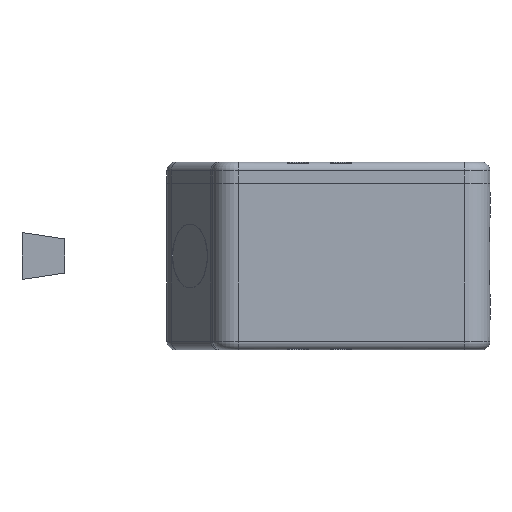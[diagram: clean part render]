
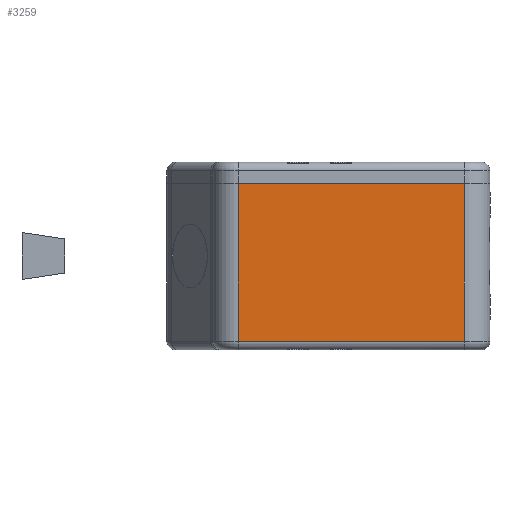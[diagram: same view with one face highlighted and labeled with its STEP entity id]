
A CAD part, front view. The second image highlights one B-rep face of the part: STEP entity #3259.
In plain terms, the highlighted planar face has unit normal (0, -1, 0).
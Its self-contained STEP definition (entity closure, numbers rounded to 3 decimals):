
#1290 = AXIS2_PLACEMENT_3D ( 'NONE', #9126, #23702, #19220 ) ;
#1387 = ORIENTED_EDGE ( 'NONE', *, *, #27041, .T. ) ;
#1480 = EDGE_LOOP ( 'NONE', ( #22963, #1387, #9061, #11560 ) ) ;
#2621 = CARTESIAN_POINT ( 'NONE',  ( 36.763, -36.226, 2. ) ) ;
#2703 = EDGE_CURVE ( 'NONE', #6334, #11906, #19130, .T. ) ;
#3259 = ADVANCED_FACE ( 'NONE', ( #14573 ), #4908, .F. ) ;
#3315 = EDGE_CURVE ( 'NONE', #25548, #16723, #19133, .T. ) ;
#3825 = DIRECTION ( 'NONE',  ( 1., 0., 0. ) ) ;
#4183 = VECTOR ( 'NONE', #3825, 1000. ) ;
#4908 = PLANE ( 'NONE',  #1290 ) ;
#5128 = VECTOR ( 'NONE', #11493, 1000. ) ;
#6334 = VERTEX_POINT ( 'NONE', #16452 ) ;
#6580 = LINE ( 'NONE', #19900, #10520 ) ;
#7100 = VECTOR ( 'NONE', #8012, 1000. ) ;
#8012 = DIRECTION ( 'NONE',  ( 0., 0., -1. ) ) ;
#9061 = ORIENTED_EDGE ( 'NONE', *, *, #3315, .T. ) ;
#9126 = CARTESIAN_POINT ( 'NONE',  ( -22.237, -36.226, 39. ) ) ;
#9771 = CARTESIAN_POINT ( 'NONE',  ( -16.237, -36.226, 39. ) ) ;
#10520 = VECTOR ( 'NONE', #11562, 1000. ) ;
#11493 = DIRECTION ( 'NONE',  ( 0., 0., 1. ) ) ;
#11560 = ORIENTED_EDGE ( 'NONE', *, *, #20612, .F. ) ;
#11562 = DIRECTION ( 'NONE',  ( 1., 0., 0. ) ) ;
#11906 = VERTEX_POINT ( 'NONE', #24692 ) ;
#14001 = CARTESIAN_POINT ( 'NONE',  ( -22.237, -36.226, 2. ) ) ;
#14573 = FACE_OUTER_BOUND ( 'NONE', #1480, .T. ) ;
#16452 = CARTESIAN_POINT ( 'NONE',  ( -16.237, -36.226, 39. ) ) ;
#16723 = VERTEX_POINT ( 'NONE', #18707 ) ;
#18707 = CARTESIAN_POINT ( 'NONE',  ( 36.763, -36.226, 39. ) ) ;
#18852 = LINE ( 'NONE', #14001, #4183 ) ;
#19130 = LINE ( 'NONE', #9771, #7100 ) ;
#19133 = LINE ( 'NONE', #19748, #5128 ) ;
#19220 = DIRECTION ( 'NONE',  ( 0., 0., 1. ) ) ;
#19748 = CARTESIAN_POINT ( 'NONE',  ( 36.763, -36.226, 39. ) ) ;
#19900 = CARTESIAN_POINT ( 'NONE',  ( -22.237, -36.226, 39. ) ) ;
#20612 = EDGE_CURVE ( 'NONE', #6334, #16723, #6580, .T. ) ;
#22963 = ORIENTED_EDGE ( 'NONE', *, *, #2703, .T. ) ;
#23702 = DIRECTION ( 'NONE',  ( 0., 1., 0. ) ) ;
#24692 = CARTESIAN_POINT ( 'NONE',  ( -16.237, -36.226, 2. ) ) ;
#25548 = VERTEX_POINT ( 'NONE', #2621 ) ;
#27041 = EDGE_CURVE ( 'NONE', #11906, #25548, #18852, .T. ) ;
